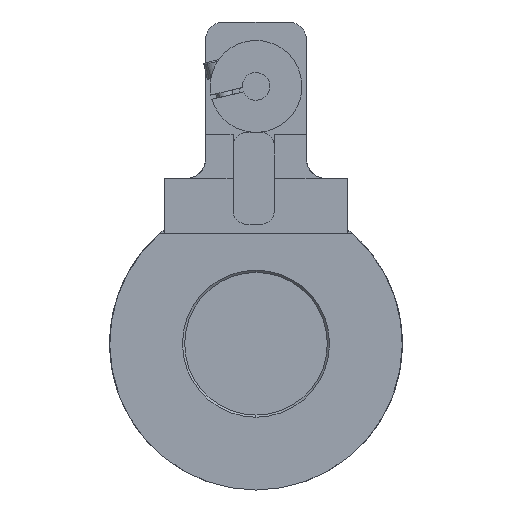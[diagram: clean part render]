
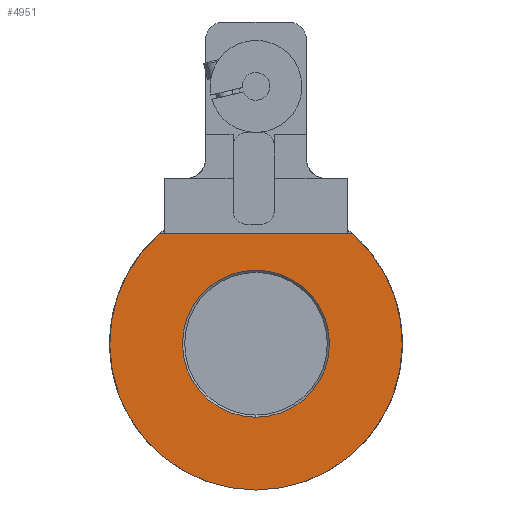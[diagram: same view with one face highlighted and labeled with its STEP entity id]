
A CAD part, front view. The second image highlights one B-rep face of the part: STEP entity #4951.
In plain terms, the highlighted planar face has unit normal (0, -1, 0).
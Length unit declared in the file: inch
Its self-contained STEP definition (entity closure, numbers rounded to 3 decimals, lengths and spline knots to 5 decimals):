
#418 = EDGE_CURVE ( 'NONE', #13716, #8587, #21225, .T. ) ;
#1002 = EDGE_LOOP ( 'NONE', ( #15375, #16114, #5207 ) ) ;
#2347 = AXIS2_PLACEMENT_3D ( 'NONE', #21455, #7493, #9563 ) ;
#2547 = AXIS2_PLACEMENT_3D ( 'NONE', #19163, #8713, #20929 ) ;
#2922 = ORIENTED_EDGE ( 'NONE', *, *, #6921, .T. ) ;
#2997 = VECTOR ( 'NONE', #8645, 39.37008 ) ;
#4131 = CARTESIAN_POINT ( 'NONE',  ( 0., -1.625, -0.5 ) ) ;
#4227 = AXIS2_PLACEMENT_3D ( 'NONE', #4277, #16466, #6038 ) ;
#4277 = CARTESIAN_POINT ( 'NONE',  ( 0., -1.625, 0. ) ) ;
#4951 = ADVANCED_FACE ( 'NONE', ( #10915, #15556 ), #19409, .F. ) ;
#5207 = ORIENTED_EDGE ( 'NONE', *, *, #6109, .F. ) ;
#5428 = CIRCLE ( 'NONE', #2547, 0.5 ) ;
#6038 = DIRECTION ( 'NONE',  ( 0., 0., 1. ) ) ;
#6109 = EDGE_CURVE ( 'NONE', #12542, #13870, #10059, .T. ) ;
#6649 = CARTESIAN_POINT ( 'NONE',  ( 0., -1.625, 0.5 ) ) ;
#6895 = ORIENTED_EDGE ( 'NONE', *, *, #418, .T. ) ;
#6903 = CARTESIAN_POINT ( 'NONE',  ( 0., -1.625, 0.75 ) ) ;
#6921 = EDGE_CURVE ( 'NONE', #8587, #13716, #5428, .T. ) ;
#7493 = DIRECTION ( 'NONE',  ( 0., 1., 0. ) ) ;
#7764 = DIRECTION ( 'NONE',  ( 0., 1., 0. ) ) ;
#8587 = VERTEX_POINT ( 'NONE', #6649 ) ;
#8626 = CARTESIAN_POINT ( 'NONE',  ( 0.65385, -1.625, 0.75 ) ) ;
#8645 = DIRECTION ( 'NONE',  ( 1., 0., 0. ) ) ;
#8713 = DIRECTION ( 'NONE',  ( 0., 1., 0. ) ) ;
#9563 = DIRECTION ( 'NONE',  ( 0., 0., 1. ) ) ;
#9710 = DIRECTION ( 'NONE',  ( 0., 1., 0. ) ) ;
#10059 = CIRCLE ( 'NONE', #4227, 0.995 ) ;
#10915 = FACE_BOUND ( 'NONE', #21040, .T. ) ;
#10957 = CARTESIAN_POINT ( 'NONE',  ( 0., -1.625, 0. ) ) ;
#12542 = VERTEX_POINT ( 'NONE', #8626 ) ;
#13716 = VERTEX_POINT ( 'NONE', #4131 ) ;
#13870 = VERTEX_POINT ( 'NONE', #19056 ) ;
#14644 = EDGE_CURVE ( 'NONE', #19684, #12542, #21013, .T. ) ;
#15375 = ORIENTED_EDGE ( 'NONE', *, *, #14644, .F. ) ;
#15556 = FACE_OUTER_BOUND ( 'NONE', #1002, .T. ) ;
#16013 = CARTESIAN_POINT ( 'NONE',  ( -0.65385, -1.625, 0.75 ) ) ;
#16114 = ORIENTED_EDGE ( 'NONE', *, *, #17988, .F. ) ;
#16466 = DIRECTION ( 'NONE',  ( 0., 1., 0. ) ) ;
#16527 = AXIS2_PLACEMENT_3D ( 'NONE', #20146, #9710, #21888 ) ;
#16984 = CIRCLE ( 'NONE', #16527, 0.995 ) ;
#17645 = AXIS2_PLACEMENT_3D ( 'NONE', #10957, #7764, #19116 ) ;
#17988 = EDGE_CURVE ( 'NONE', #13870, #19684, #16984, .T. ) ;
#19056 = CARTESIAN_POINT ( 'NONE',  ( 0., -1.625, -0.995 ) ) ;
#19116 = DIRECTION ( 'NONE',  ( 0., 0., 1. ) ) ;
#19163 = CARTESIAN_POINT ( 'NONE',  ( 0., -1.625, 0. ) ) ;
#19409 = PLANE ( 'NONE',  #17645 ) ;
#19684 = VERTEX_POINT ( 'NONE', #16013 ) ;
#20146 = CARTESIAN_POINT ( 'NONE',  ( 0., -1.625, 0. ) ) ;
#20929 = DIRECTION ( 'NONE',  ( 0., 0., 1. ) ) ;
#21013 = LINE ( 'NONE', #6903, #2997 ) ;
#21040 = EDGE_LOOP ( 'NONE', ( #6895, #2922 ) ) ;
#21225 = CIRCLE ( 'NONE', #2347, 0.5 ) ;
#21455 = CARTESIAN_POINT ( 'NONE',  ( 0., -1.625, 0. ) ) ;
#21888 = DIRECTION ( 'NONE',  ( 0., 0., 1. ) ) ;
